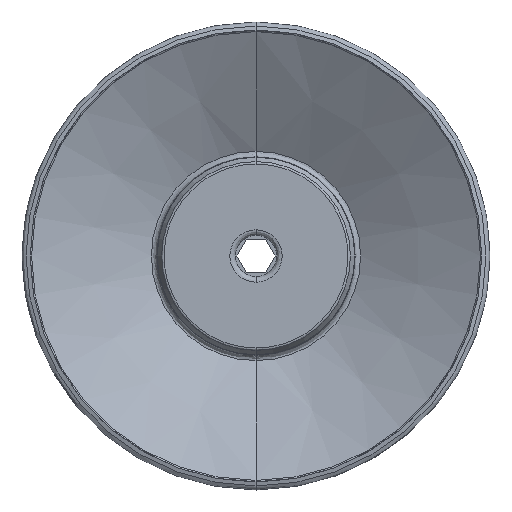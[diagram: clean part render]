
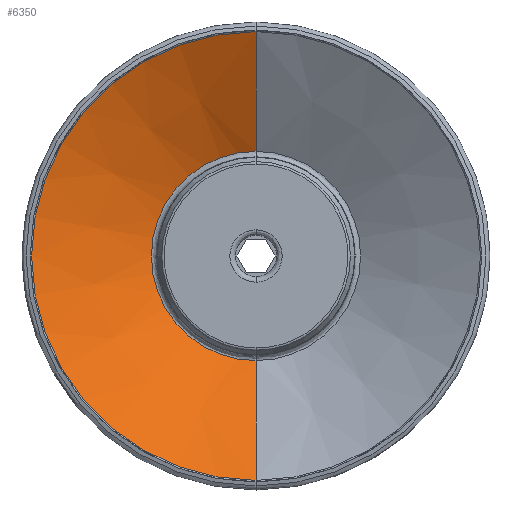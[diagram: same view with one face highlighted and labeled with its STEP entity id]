
A CAD part, front view. The second image highlights one B-rep face of the part: STEP entity #6350.
In plain terms, the highlighted conical face has half-angle 61.475 degrees and reference radius 40.75 mm.
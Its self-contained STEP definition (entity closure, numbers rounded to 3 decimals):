
#21 = DIRECTION ( 'NONE',  ( 0., -0.478, 0.879 ) ) ;
#397 = CARTESIAN_POINT ( 'NONE',  ( 0., -40.691, 40.75 ) ) ;
#1179 = AXIS2_PLACEMENT_3D ( 'NONE', #5534, #10513, #5255 ) ;
#1185 = ORIENTED_EDGE ( 'NONE', *, *, #13360, .F. ) ;
#1451 = AXIS2_PLACEMENT_3D ( 'NONE', #4620, #6736, #3422 ) ;
#1546 = DIRECTION ( 'NONE',  ( 0., 1., 0. ) ) ;
#1787 = EDGE_CURVE ( 'NONE', #11531, #2212, #11320, .T. ) ;
#2185 = ORIENTED_EDGE ( 'NONE', *, *, #1787, .F. ) ;
#2212 = VERTEX_POINT ( 'NONE', #6103 ) ;
#2358 = DIRECTION ( 'NONE',  ( 0., 0., -1. ) ) ;
#2558 = EDGE_LOOP ( 'NONE', ( #13262, #4720, #2185, #1185 ) ) ;
#2753 = VECTOR ( 'NONE', #21, 1000. ) ;
#3251 = CARTESIAN_POINT ( 'NONE',  ( 0., -40.691, -40.75 ) ) ;
#3422 = DIRECTION ( 'NONE',  ( 0., 0., -1. ) ) ;
#3431 = VERTEX_POINT ( 'NONE', #8456 ) ;
#3832 = VECTOR ( 'NONE', #5479, 1000. ) ;
#4525 = LINE ( 'NONE', #3251, #3832 ) ;
#4569 = CARTESIAN_POINT ( 'NONE',  ( 0., -40.691, -40.75 ) ) ;
#4620 = CARTESIAN_POINT ( 'NONE',  ( 0., -28.87, 0. ) ) ;
#4720 = ORIENTED_EDGE ( 'NONE', *, *, #8487, .T. ) ;
#5255 = DIRECTION ( 'NONE',  ( 0., 0., -1. ) ) ;
#5479 = DIRECTION ( 'NONE',  ( 0., -0.478, -0.879 ) ) ;
#5508 = AXIS2_PLACEMENT_3D ( 'NONE', #6766, #1546, #2358 ) ;
#5534 = CARTESIAN_POINT ( 'NONE',  ( 0., -40.691, 0. ) ) ;
#6103 = CARTESIAN_POINT ( 'NONE',  ( 0., -40.691, 40.75 ) ) ;
#6350 = ADVANCED_FACE ( 'NONE', ( #11408 ), #12411, .F. ) ;
#6736 = DIRECTION ( 'NONE',  ( 0., -1., 0. ) ) ;
#6766 = CARTESIAN_POINT ( 'NONE',  ( 0., -40.691, 0. ) ) ;
#7921 = CIRCLE ( 'NONE', #1451, 19. ) ;
#8456 = CARTESIAN_POINT ( 'NONE',  ( 0., -28.87, 19. ) ) ;
#8487 = EDGE_CURVE ( 'NONE', #3431, #2212, #8697, .T. ) ;
#8697 = LINE ( 'NONE', #397, #2753 ) ;
#10266 = EDGE_CURVE ( 'NONE', #3431, #12442, #7921, .T. ) ;
#10513 = DIRECTION ( 'NONE',  ( 0., -1., 0. ) ) ;
#10603 = CARTESIAN_POINT ( 'NONE',  ( 0., -28.87, -19. ) ) ;
#11320 = CIRCLE ( 'NONE', #5508, 40.75 ) ;
#11408 = FACE_OUTER_BOUND ( 'NONE', #2558, .T. ) ;
#11531 = VERTEX_POINT ( 'NONE', #4569 ) ;
#12411 = CONICAL_SURFACE ( 'NONE', #1179, 40.75, 1.073 ) ;
#12442 = VERTEX_POINT ( 'NONE', #10603 ) ;
#13262 = ORIENTED_EDGE ( 'NONE', *, *, #10266, .F. ) ;
#13360 = EDGE_CURVE ( 'NONE', #12442, #11531, #4525, .T. ) ;
